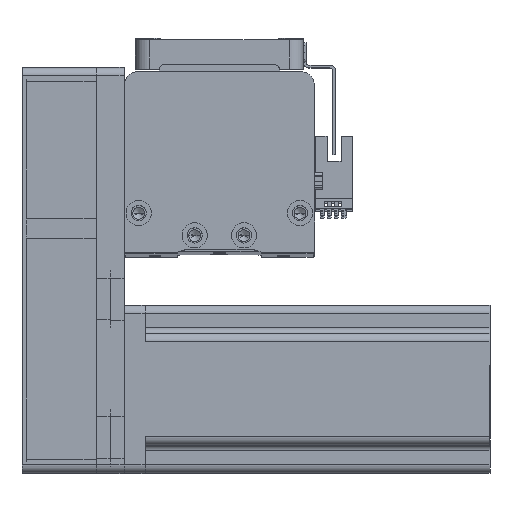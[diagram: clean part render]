
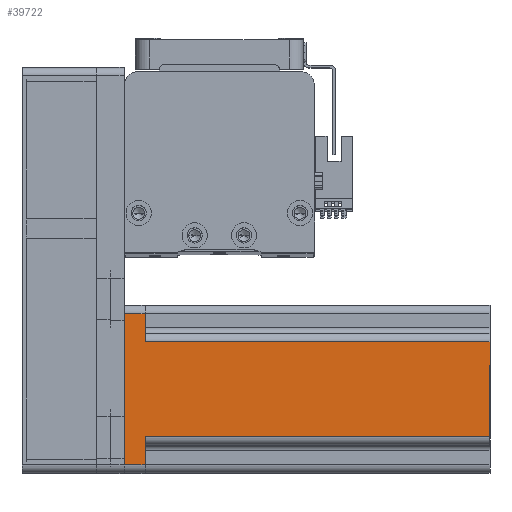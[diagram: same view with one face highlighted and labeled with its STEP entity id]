
A CAD part, top view. The second image highlights one B-rep face of the part: STEP entity #39722.
In plain terms, the highlighted planar face has unit normal (0, 0, 1) as drawn and (0, -1, 0) by its records, which use the part's own axes.
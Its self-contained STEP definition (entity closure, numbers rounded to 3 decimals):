
#1177 = EDGE_LOOP ( 'NONE', ( #8579, #36264, #37905, #16084, #22589, #37352, #11094, #17310 ) ) ;
#1218 = DIRECTION ( 'NONE',  ( 0., 0., 1. ) ) ;
#1449 = EDGE_CURVE ( 'NONE', #11814, #6400, #20572, .T. ) ;
#2038 = DIRECTION ( 'NONE',  ( 0., 1., 0. ) ) ;
#2943 = CARTESIAN_POINT ( 'NONE',  ( 17., -30., 130.7 ) ) ;
#3221 = CARTESIAN_POINT ( 'NONE',  ( -27., -30., 7.5 ) ) ;
#6253 = CARTESIAN_POINT ( 'NONE',  ( 27., -30., 7.5 ) ) ;
#6400 = VERTEX_POINT ( 'NONE', #16095 ) ;
#6489 = LINE ( 'NONE', #2943, #16116 ) ;
#8579 = ORIENTED_EDGE ( 'NONE', *, *, #24387, .F. ) ;
#8845 = CARTESIAN_POINT ( 'NONE',  ( -17., -30., 130.7 ) ) ;
#8963 = LINE ( 'NONE', #26142, #46421 ) ;
#9418 = EDGE_CURVE ( 'NONE', #28356, #21431, #43894, .T. ) ;
#11094 = ORIENTED_EDGE ( 'NONE', *, *, #1449, .T. ) ;
#11323 = CARTESIAN_POINT ( 'NONE',  ( -17., -30., 130.7 ) ) ;
#11635 = DIRECTION ( 'NONE',  ( 1., 0., 0. ) ) ;
#11814 = VERTEX_POINT ( 'NONE', #6253 ) ;
#11985 = DIRECTION ( 'NONE',  ( -1., 0., 0. ) ) ;
#12719 = CARTESIAN_POINT ( 'NONE',  ( -27., -30., 130.7 ) ) ;
#14468 = EDGE_CURVE ( 'NONE', #26986, #11814, #31702, .T. ) ;
#14988 = VECTOR ( 'NONE', #45366, 1000. ) ;
#16084 = ORIENTED_EDGE ( 'NONE', *, *, #39132, .T. ) ;
#16095 = CARTESIAN_POINT ( 'NONE',  ( 17., -30., 7.5 ) ) ;
#16116 = VECTOR ( 'NONE', #39243, 1000. ) ;
#16430 = LINE ( 'NONE', #22459, #35281 ) ;
#17242 = EDGE_CURVE ( 'NONE', #41275, #26986, #16430, .T. ) ;
#17310 = ORIENTED_EDGE ( 'NONE', *, *, #40409, .T. ) ;
#19141 = CARTESIAN_POINT ( 'NONE',  ( 20., -30., 7.5 ) ) ;
#20024 = CARTESIAN_POINT ( 'NONE',  ( -20., -30., 7.5 ) ) ;
#20572 = LINE ( 'NONE', #19141, #29083 ) ;
#20719 = AXIS2_PLACEMENT_3D ( 'NONE', #23790, #2038, #27429 ) ;
#20937 = VECTOR ( 'NONE', #1218, 1000. ) ;
#21431 = VERTEX_POINT ( 'NONE', #31109 ) ;
#22459 = CARTESIAN_POINT ( 'NONE',  ( 30., -30., 0. ) ) ;
#22556 = VERTEX_POINT ( 'NONE', #35399 ) ;
#22589 = ORIENTED_EDGE ( 'NONE', *, *, #17242, .T. ) ;
#23790 = CARTESIAN_POINT ( 'NONE',  ( 30., -30., 130.7 ) ) ;
#24387 = EDGE_CURVE ( 'NONE', #31334, #22556, #8963, .T. ) ;
#26124 = DIRECTION ( 'NONE',  ( 1., 0., 0. ) ) ;
#26142 = CARTESIAN_POINT ( 'NONE',  ( 30., -30., 130.7 ) ) ;
#26648 = CARTESIAN_POINT ( 'NONE',  ( 27., -30., 130.7 ) ) ;
#26986 = VERTEX_POINT ( 'NONE', #29805 ) ;
#27429 = DIRECTION ( 'NONE',  ( -1., 0., 0. ) ) ;
#28356 = VERTEX_POINT ( 'NONE', #3221 ) ;
#29083 = VECTOR ( 'NONE', #11985, 1000. ) ;
#29713 = EDGE_CURVE ( 'NONE', #31334, #21431, #30219, .T. ) ;
#29805 = CARTESIAN_POINT ( 'NONE',  ( 27., -30., 0. ) ) ;
#30219 = LINE ( 'NONE', #11323, #39877 ) ;
#31109 = CARTESIAN_POINT ( 'NONE',  ( -17., -30., 7.5 ) ) ;
#31334 = VERTEX_POINT ( 'NONE', #8845 ) ;
#31702 = LINE ( 'NONE', #26648, #20937 ) ;
#33085 = DIRECTION ( 'NONE',  ( 0., 0., -1. ) ) ;
#33778 = CARTESIAN_POINT ( 'NONE',  ( -27., -30., 0. ) ) ;
#33906 = VECTOR ( 'NONE', #45351, 1000. ) ;
#34998 = FACE_OUTER_BOUND ( 'NONE', #1177, .T. ) ;
#35281 = VECTOR ( 'NONE', #26124, 1000. ) ;
#35399 = CARTESIAN_POINT ( 'NONE',  ( 17., -30., 130.7 ) ) ;
#36264 = ORIENTED_EDGE ( 'NONE', *, *, #29713, .T. ) ;
#37352 = ORIENTED_EDGE ( 'NONE', *, *, #14468, .T. ) ;
#37905 = ORIENTED_EDGE ( 'NONE', *, *, #9418, .F. ) ;
#39132 = EDGE_CURVE ( 'NONE', #28356, #41275, #44670, .T. ) ;
#39243 = DIRECTION ( 'NONE',  ( 0., 0., 1. ) ) ;
#39722 = ADVANCED_FACE ( 'NONE', ( #34998 ), #41649, .F. ) ;
#39877 = VECTOR ( 'NONE', #33085, 1000. ) ;
#40409 = EDGE_CURVE ( 'NONE', #6400, #22556, #6489, .T. ) ;
#41275 = VERTEX_POINT ( 'NONE', #33778 ) ;
#41649 = PLANE ( 'NONE',  #20719 ) ;
#43894 = LINE ( 'NONE', #20024, #14988 ) ;
#44670 = LINE ( 'NONE', #12719, #33906 ) ;
#45351 = DIRECTION ( 'NONE',  ( 0., 0., -1. ) ) ;
#45366 = DIRECTION ( 'NONE',  ( 1., 0., 0. ) ) ;
#46421 = VECTOR ( 'NONE', #11635, 1000. ) ;
